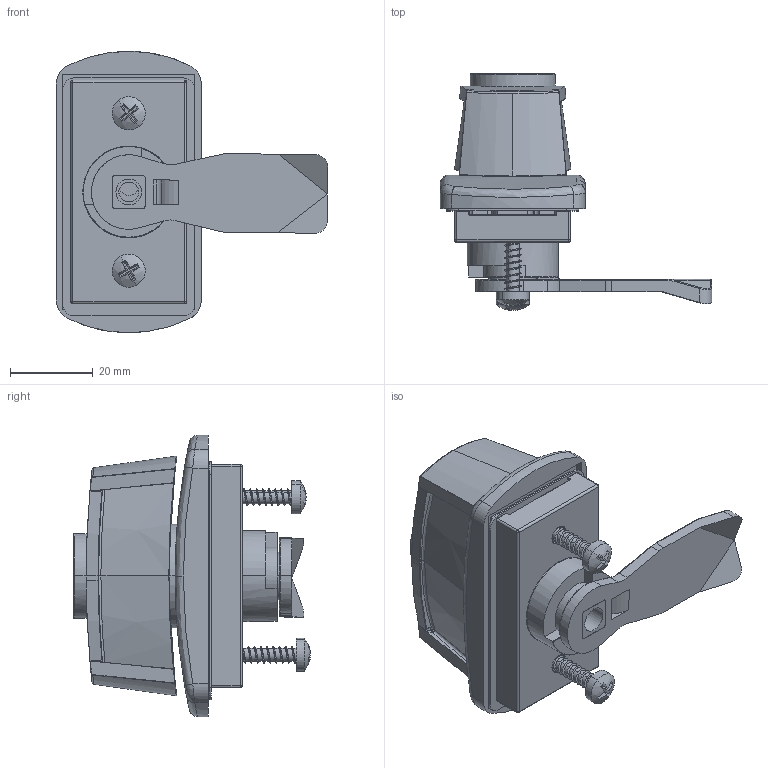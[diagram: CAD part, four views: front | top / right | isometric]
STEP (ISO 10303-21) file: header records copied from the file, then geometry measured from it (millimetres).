
FILE_DESCRIPTION (( 'STEP AP214' ), '1' );
FILE_NAME ('RW200 N.STEP', '2010-02-26T12:48:10', ( 'Techniczny' ), ( 'RST Roztocze' ), 'SwSTEP 2.0', 'SolidWorks 2010', '' );
FILE_SCHEMA (( 'AUTOMOTIVE_DESIGN' ));
Length unit declared in the file: millimetre
Products named in the file (13): ORING_1; 1B. RW200N 00.02_1; O-RING 12x2._1; Nak³adka RwW; O-RING 12x2.2_1; Wkrêt 4,1 x 23_1; RW200 N; 1B. RW200N 00.06_1; 1B. RW200N 00.05_1; Z這瞠nie_1; 1B. RW200N 00.04_Default_1; 1B. RW200N 00.01_1; Wk³adka patentowa_Default_1
Assembly tree (13 placements, depth 3):
  RW200 N
    Nak³adka RwW
    Z這瞠nie_1
      1B. RW200N 00.01_1
      ORING_1
      Wk³adka patentowa_Default_1
      1B. RW200N 00.04_Default_1
      1B. RW200N 00.06_1
      1B. RW200N 00.05_1
      O-RING 12x2._1
      O-RING 12x2.2_1
      1B. RW200N 00.02_1
    Wkrêt 4,1 x 23_1  x2
Bounding box: 65.55 x 57.14 x 68 mm (x, y, z)
Volume: 30397.1 mm3; surface area: 35115.7 mm2
Topology: 11 solids, 14 shells, 709 faces, 1812 edges, 1149 vertices
Faces by surface type: cylinder 309, plane 267, bspline 88, torus 24, sphere 11, cone 10
Entity records: 41129 total; most frequent: CARTESIAN_POINT 19264, ORIENTED_EDGE 3216, DIRECTION 2656, EDGE_CURVE 1611, VERTEX_POINT 1021, AXIS2_PLACEMENT_3D 965, LINE 726, VECTOR 726
